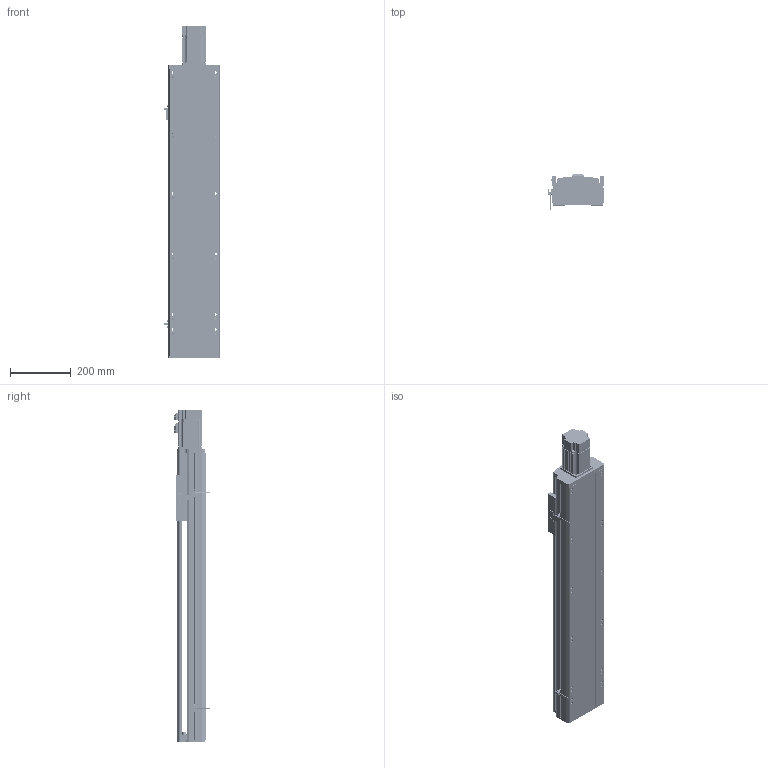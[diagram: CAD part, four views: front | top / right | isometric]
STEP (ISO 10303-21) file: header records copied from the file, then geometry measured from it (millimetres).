
FILE_DESCRIPTION (( 'STEP AP214' ), '1' );
FILE_NAME ('CTH170-700.STEP', '2019-11-25T08:57:01', ( '微软用户' ), ( '微软中国' ), 'SwSTEP 2.0', 'SolidWorks 2017', '' );
FILE_SCHEMA (( 'AUTOMOTIVE_DESIGN' ));
Length unit declared in the file: millimetre
Products named in the file (32): 80EMA-016A; EE-SX672峚倰換覜ん; 170萇儂啣; CT17耀郪-覜茼んえ; 170傷啣; M6-L20囀鞠褒蹟佪; EGH20CA; 蚾饜极3^CTH170-L10-200; M5-L20囀鞠褒蹟佪-BR L; M4-L10囀鞠褒蹟佪-BR L; M5-L10囀鞠褒蹟佪; 坶踡蹟簽M15x1; EGH20CA_BLOCK; 潔路遠COL15-A; EG20_RAIL; MISUMI_B7002-DB_盄俶絳砃粣; 170賑怢; BEARING_MISUMI_B7002-DB_盄俶絳砃粣; 170裔啣^CTH170-L10-200; 錨璃8^蚾饜极3_CTH170-L10-200; 錨璃2; 复件 轴承座^装配体3_CTH170-L10-200; 佪話盓傅釱^CTH170-L10-200; CTH170-700; M5-L16囀鞠褒蹟佪; 遣喳蝶15x12x8-BR L; 支撑座^丝杠支撑座_CTH170-L10-200; B6002Z; _C-BSST2005_n; SFS2005-411-SZC; SFH2010佪裝; M3-L8囀鞠褒蹟佪
Assembly tree (79 placements, depth 4):
  CTH170-700
    錨璃2
    170裔啣^CTH170-L10-200
    170賑怢
    EGH20CA  x2
      EG20_RAIL
      EGH20CA_BLOCK
      M5-L10囀鞠褒蹟佪
      M5-L20囀鞠褒蹟佪-BR L
    170傷啣
    170萇儂啣
    80EMA-016A
    SFS2005-411-SZC
      SFH2010佪裝
    _C-BSST2005_n
    佪話盓傅釱^CTH170-L10-200
      B6002Z
      支撑座^丝杠支撑座_CTH170-L10-200
      遣喳蝶15x12x8-BR L  x2
      M5-L16囀鞠褒蹟佪  x2
    蚾饜极3^CTH170-L10-200
      复件 轴承座^装配体3_CTH170-L10-200
      錨璃8^蚾饜极3_CTH170-L10-200
      MISUMI_B7002-DB_盄俶絳砃粣
        BEARING_MISUMI_B7002-DB_盄俶絳砃粣  x2
      潔路遠COL15-A  x2
      坶踡蹟簽M15x1
      M5-L16囀鞠褒蹟佪  x6
      M4-L10囀鞠褒蹟佪-BR L  x4
    遣喳蝶15x12x8-BR L  x2
    M6-L20囀鞠褒蹟佪  x4
    M4-L10囀鞠褒蹟佪-BR L  x10
    M5-L16囀鞠褒蹟佪  x4
    CT17耀郪-覜茼んえ
    EE-SX672峚倰換覜ん  x2
    M3-L8囀鞠褒蹟佪  x4
Bounding box: 183.7 x 117.95 x 1096 mm (x, y, z)
Volume: 6426298.6 mm3; surface area: 1958482.4 mm2
Topology: 91 solids, 92 shells, 5671 faces, 14897 edges, 9496 vertices
Faces by surface type: plane 3122, cylinder 1530, cone 637, bspline 342, torus 40
Entity records: 101966 total; most frequent: CARTESIAN_POINT 21677, ORIENTED_EDGE 14656, DIRECTION 14287, EDGE_CURVE 7328, AXIS2_PLACEMENT_3D 4988, VERTEX_POINT 4764, LINE 4311, VECTOR 4311
